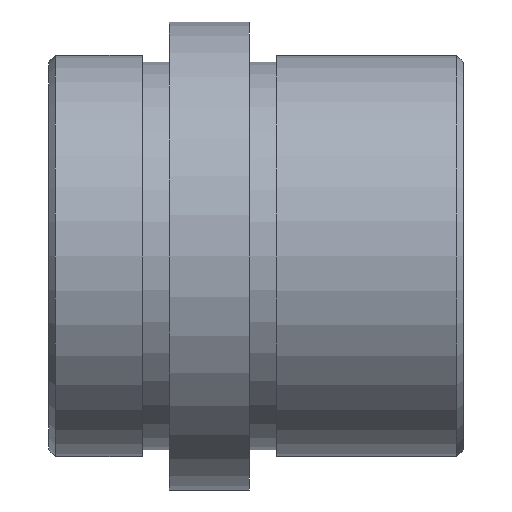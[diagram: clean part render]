
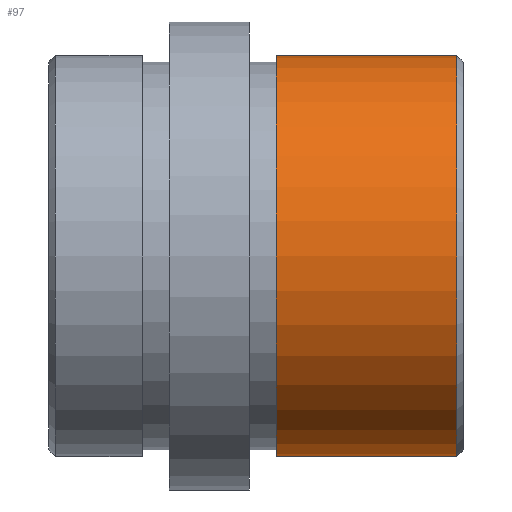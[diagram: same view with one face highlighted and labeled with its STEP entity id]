
A CAD part, front view. The second image highlights one B-rep face of the part: STEP entity #97.
In plain terms, the highlighted face is a revolution surface.
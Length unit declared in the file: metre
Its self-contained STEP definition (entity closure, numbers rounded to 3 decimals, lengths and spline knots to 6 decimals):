
#97 = ADVANCED_FACE( '', ( #149 ), #150, .F. );
#149 = FACE_OUTER_BOUND( '', #235, .T. );
#150 = SURFACE_OF_REVOLUTION( '', #236, #237 );
#235 = EDGE_LOOP( '', ( #403, #404, #405, #406 ) );
#236 = B_SPLINE_CURVE_WITH_KNOTS( '', 1, ( #407, #408 ), .UNSPECIFIED., .F., .F., ( 2, 2 ), ( -10000., 10000. ), .UNSPECIFIED. );
#237 = AXIS1_PLACEMENT( '', #409, #410 );
#403 = ORIENTED_EDGE( '', *, *, #482, .T. );
#404 = ORIENTED_EDGE( '', *, *, #485, .T. );
#405 = ORIENTED_EDGE( '', *, *, #489, .F. );
#406 = ORIENTED_EDGE( '', *, *, #483, .T. );
#407 = CARTESIAN_POINT( '', ( 10000.0305, 0., 0.015 ) );
#408 = CARTESIAN_POINT( '', ( -9999.9695, 0., 0.015 ) );
#409 = CARTESIAN_POINT( '', ( 0., 0., 0. ) );
#410 = DIRECTION( '', ( 1., 0., 0. ) );
#482 = EDGE_CURVE( '', #552, #554, #560, .T. );
#483 = EDGE_CURVE( '', #561, #552, #562, .F. );
#485 = EDGE_CURVE( '', #554, #563, #565, .T. );
#489 = EDGE_CURVE( '', #561, #563, #571, .T. );
#552 = VERTEX_POINT( '', #646 );
#554 = VERTEX_POINT( '', #649 );
#560 = CIRCLE( '', #658, 0.015 );
#561 = VERTEX_POINT( '', #659 );
#562 = LINE( '', #660, #661 );
#563 = VERTEX_POINT( '', #662 );
#565 = LINE( '', #664, #665 );
#571 = CIRCLE( '', #673, 0.015 );
#646 = CARTESIAN_POINT( '', ( 0.0305, 0., -0.015 ) );
#649 = CARTESIAN_POINT( '', ( 0.0305, 0., 0.015 ) );
#658 = AXIS2_PLACEMENT_3D( '', #772, #773, #774 );
#659 = CARTESIAN_POINT( '', ( 0.017, 0., -0.015 ) );
#660 = CARTESIAN_POINT( '', ( 0.0305, 0., -0.015 ) );
#661 = VECTOR( '', #775, 1. );
#662 = CARTESIAN_POINT( '', ( 0.017, 0., 0.015 ) );
#664 = CARTESIAN_POINT( '', ( 0.0305, 0., 0.015 ) );
#665 = VECTOR( '', #779, 1. );
#673 = AXIS2_PLACEMENT_3D( '', #785, #786, #787 );
#772 = CARTESIAN_POINT( '', ( 0.0305, 0., 0. ) );
#773 = DIRECTION( '', ( -1., 0., 0. ) );
#774 = DIRECTION( '', ( 0., 0., 1. ) );
#775 = DIRECTION( '', ( -1., 0., 0. ) );
#779 = DIRECTION( '', ( -1., 0., 0. ) );
#785 = CARTESIAN_POINT( '', ( 0.017, 0., 0. ) );
#786 = DIRECTION( '', ( -1., 0., 0. ) );
#787 = DIRECTION( '', ( 0., 0., 1. ) );
